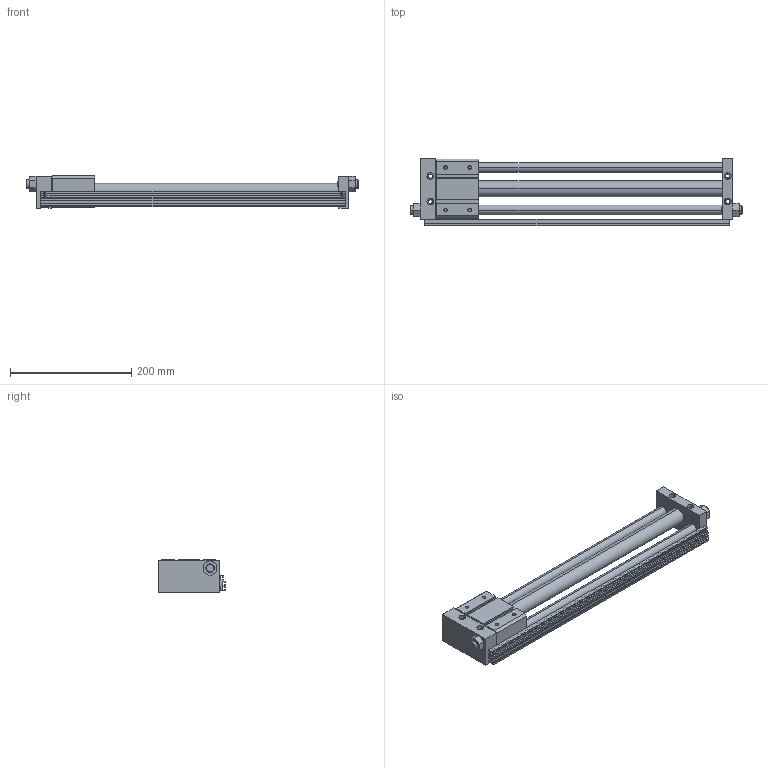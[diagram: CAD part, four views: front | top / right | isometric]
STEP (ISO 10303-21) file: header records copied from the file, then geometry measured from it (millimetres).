
FILE_DESCRIPTION((''),'2;1');
FILE_NAME('C:\Documents and Settings\Administrator\桌面\GYS\GYS25\GYSR25X400.stp','2012-03-06T10:39:01',('Administrator'),(''),'Autodesk Inventor 8','Autodesk Inventor 8','');
FILE_SCHEMA(('AUTOMOTIVE_DESIGN { 1 0 10303 214 1 1 1 1 }'));
Length unit declared in the file: millimetre
Products named in the file (3): GYSR25X400; GYS25X400; GYS25160X400
Assembly tree (2 placements, depth 2):
  GYSR25X400
    GYS25X400
    GYS25160X400
Bounding box: 547 x 110.5 x 54 mm (x, y, z)
Volume: 1000655.9 mm3; surface area: 206720.7 mm2
Topology: 2 solids, 2 shells, 276 faces, 718 edges, 468 vertices
Faces by surface type: plane 154, cylinder 80, cone 32, bspline 10
Entity records: 8662 total; most frequent: CARTESIAN_POINT 1609, DIRECTION 1476, ORIENTED_EDGE 1436, EDGE_CURVE 718, VECTOR 502, LINE 502, AXIS2_PLACEMENT_3D 487, VERTEX_POINT 468
